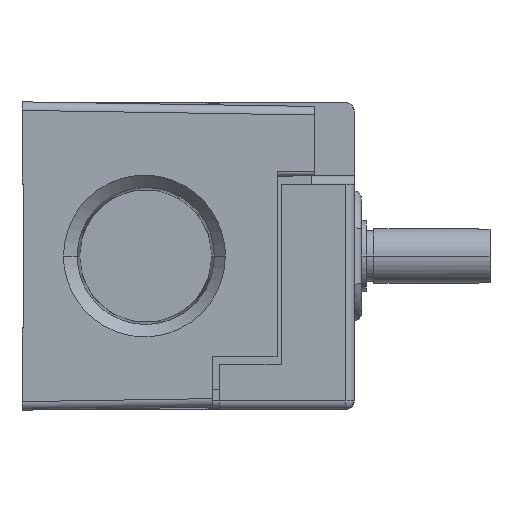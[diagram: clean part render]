
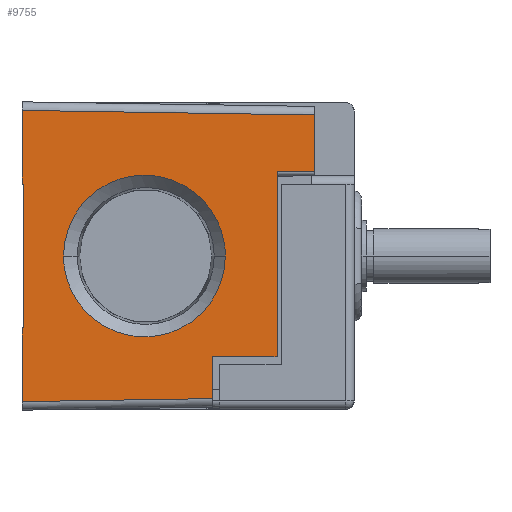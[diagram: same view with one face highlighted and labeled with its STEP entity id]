
A CAD part, front view. The second image highlights one B-rep face of the part: STEP entity #9755.
In plain terms, the highlighted planar face has unit normal (0.016, -1, 0).
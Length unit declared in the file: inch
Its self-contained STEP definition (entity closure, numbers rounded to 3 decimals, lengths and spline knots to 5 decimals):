
#1991=CARTESIAN_POINT('',(0.161,-3.18829,-0.7493));
#2001=DIRECTION('',(0.,0.,1.));
#2002=VECTOR('',#2001,0.2193);
#2003=CARTESIAN_POINT('',(0.161,-3.18829,-0.7493));
#2004=LINE('',#2003,#2002);
#2479=DIRECTION('',(0.,0.,1.));
#2480=VECTOR('',#2479,0.973);
#2481=CARTESIAN_POINT('',(0.501,-3.18295,-0.53));
#2482=LINE('',#2481,#2480);
#2487=DIRECTION('',(1.,0.016,0.));
#2488=VECTOR('',#2487,0.34004);
#2489=CARTESIAN_POINT('',(0.161,-3.18829,-0.53));
#2490=LINE('',#2489,#2488);
#2491=DIRECTION('',(-1.,-0.016,0.016));
#2492=VECTOR('',#2491,1.53538);
#2493=CARTESIAN_POINT('',(0.696,-3.17989,0.74089));
#2494=LINE('',#2493,#2492);
#2495=DIRECTION('',(1.,0.016,0.016));
#2496=VECTOR('',#2495,1.00025);
#2497=CARTESIAN_POINT('',(-0.839,-3.204,-0.76501));
#2498=LINE('',#2497,#2496);
#2499=DIRECTION('',(1.,0.016,0.));
#2500=VECTOR('',#2499,0.01);
#2501=CARTESIAN_POINT('',(-0.839,-3.204,-0.378));
#2502=LINE('',#2501,#2500);
#2503=DIRECTION('',(0.,0.,1.));
#2504=VECTOR('',#2503,0.756);
#2505=CARTESIAN_POINT('',(-0.829,-3.20384,-0.378));
#2506=LINE('',#2505,#2504);
#2507=DIRECTION('',(1.,0.016,0.));
#2508=VECTOR('',#2507,0.01);
#2509=CARTESIAN_POINT('',(-0.839,-3.204,0.378));
#2510=LINE('',#2509,#2508);
#2511=CARTESIAN_POINT('',(0.22922,-3.18722,0.));
#2512=CARTESIAN_POINT('',(0.22922,-3.18722,
-0.02503));
#2513=CARTESIAN_POINT('',(0.22477,-3.18729,
-0.07698));
#2514=CARTESIAN_POINT('',(0.20223,-3.18764,
-0.15686));
#2515=CARTESIAN_POINT('',(0.16265,-3.18826,
-0.23386));
#2516=CARTESIAN_POINT('',(0.10694,-3.18914,
-0.30258));
#2517=CARTESIAN_POINT('',(0.03821,-3.19022,
-0.35828));
#2518=CARTESIAN_POINT('',(-0.02595,-3.19123,
-0.39125));
#2519=CARTESIAN_POINT('',(-0.07874,-3.19206,
-0.40913));
#2520=CARTESIAN_POINT('',(-0.11844,-3.19268,
-0.41841));
#2521=CARTESIAN_POINT('',(-0.15111,-3.19319,
-0.42285));
#2522=CARTESIAN_POINT('',(-0.1768,-3.1936,
-0.42456));
#2523=CARTESIAN_POINT('',(-0.19567,-3.19389,
-0.42498));
#2524=CARTESIAN_POINT('',(-0.21455,-3.19419,
-0.42456));
#2525=CARTESIAN_POINT('',(-0.24024,-3.19459,
-0.42285));
#2526=CARTESIAN_POINT('',(-0.27291,-3.19511,
-0.41841));
#2527=CARTESIAN_POINT('',(-0.31261,-3.19573,
-0.40913));
#2528=CARTESIAN_POINT('',(-0.36539,-3.19656,
-0.39125));
#2529=CARTESIAN_POINT('',(-0.42956,-3.19757,
-0.35828));
#2530=CARTESIAN_POINT('',(-0.49829,-3.19865,
-0.30258));
#2531=CARTESIAN_POINT('',(-0.554,-3.19952,
-0.23386));
#2532=CARTESIAN_POINT('',(-0.59357,-3.20014,
-0.15686));
#2533=CARTESIAN_POINT('',(-0.61612,-3.2005,
-0.07698));
#2534=CARTESIAN_POINT('',(-0.62057,-3.20057,
-0.02503));
#2535=CARTESIAN_POINT('',(-0.62057,-3.20057,0.));
#2537=CARTESIAN_POINT('',(-0.62057,-3.20057,0.));
#2538=CARTESIAN_POINT('',(-0.62057,-3.20057,
0.02503));
#2539=CARTESIAN_POINT('',(-0.61612,-3.2005,
0.07698));
#2540=CARTESIAN_POINT('',(-0.59357,-3.20014,
0.15686));
#2541=CARTESIAN_POINT('',(-0.554,-3.19952,
0.23386));
#2542=CARTESIAN_POINT('',(-0.49829,-3.19865,
0.30258));
#2543=CARTESIAN_POINT('',(-0.42956,-3.19757,
0.35828));
#2544=CARTESIAN_POINT('',(-0.36539,-3.19656,
0.39125));
#2545=CARTESIAN_POINT('',(-0.31261,-3.19573,
0.40913));
#2546=CARTESIAN_POINT('',(-0.27291,-3.19511,
0.41841));
#2547=CARTESIAN_POINT('',(-0.24024,-3.19459,
0.42285));
#2548=CARTESIAN_POINT('',(-0.21455,-3.19419,
0.42456));
#2549=CARTESIAN_POINT('',(-0.19567,-3.19389,
0.42498));
#2550=CARTESIAN_POINT('',(-0.1768,-3.1936,
0.42456));
#2551=CARTESIAN_POINT('',(-0.15111,-3.19319,
0.42285));
#2552=CARTESIAN_POINT('',(-0.11844,-3.19268,
0.41841));
#2553=CARTESIAN_POINT('',(-0.07874,-3.19206,
0.40913));
#2554=CARTESIAN_POINT('',(-0.02595,-3.19123,
0.39125));
#2555=CARTESIAN_POINT('',(0.03821,-3.19022,
0.35828));
#2556=CARTESIAN_POINT('',(0.10694,-3.18914,
0.30258));
#2557=CARTESIAN_POINT('',(0.16265,-3.18826,
0.23386));
#2558=CARTESIAN_POINT('',(0.20223,-3.18764,
0.15686));
#2559=CARTESIAN_POINT('',(0.22477,-3.18729,
0.07698));
#2560=CARTESIAN_POINT('',(0.22922,-3.18722,
0.02503));
#2561=CARTESIAN_POINT('',(0.22922,-3.18722,0.));
#2563=CARTESIAN_POINT('',(-0.839,-3.204,0.76501));
#2573=DIRECTION('',(0.,0.,1.));
#2574=VECTOR('',#2573,0.38701);
#2575=CARTESIAN_POINT('',(-0.839,-3.204,0.378));
#2576=LINE('',#2575,#2574);
#2717=CARTESIAN_POINT('',(0.696,-3.17989,0.74089));
#2746=DIRECTION('',(0.,0.,-1.));
#2747=VECTOR('',#2746,0.29789);
#2748=CARTESIAN_POINT('',(0.696,-3.17989,0.74089));
#2749=LINE('',#2748,#2747);
#2777=DIRECTION('',(1.,0.016,0.));
#2778=VECTOR('',#2777,0.19502);
#2779=CARTESIAN_POINT('',(0.501,-3.18295,0.443));
#2780=LINE('',#2779,#2778);
#2816=CARTESIAN_POINT('',(-0.839,-3.204,-0.76501));
#2835=DIRECTION('',(0.,0.,1.));
#2836=VECTOR('',#2835,0.38701);
#2837=CARTESIAN_POINT('',(-0.839,-3.204,-0.76501));
#2838=LINE('',#2837,#2836);
#5971=CARTESIAN_POINT('',(0.22922,-3.18722,0.));
#5972=VERTEX_POINT('',#5971);
#5973=CARTESIAN_POINT('',(-0.62057,-3.20057,0.));
#5974=VERTEX_POINT('',#5973);
#5976=CARTESIAN_POINT('',(0.501,-3.18295,0.443));
#5978=VERTEX_POINT('',#5976);
#5985=CARTESIAN_POINT('',(0.696,-3.17989,0.443));
#5986=VERTEX_POINT('',#5985);
#5987=CARTESIAN_POINT('',(0.501,-3.18295,-0.53));
#5988=VERTEX_POINT('',#5987);
#5995=CARTESIAN_POINT('',(0.161,-3.18829,-0.53));
#5996=VERTEX_POINT('',#5995);
#5999=VERTEX_POINT('',#2563);
#6003=VERTEX_POINT('',#2717);
#6004=VERTEX_POINT('',#1991);
#6008=VERTEX_POINT('',#2816);
#6061=CARTESIAN_POINT('',(-0.839,-3.204,-0.378));
#6062=VERTEX_POINT('',#6061);
#6063=CARTESIAN_POINT('',(-0.839,-3.204,0.378));
#6065=VERTEX_POINT('',#6063);
#6083=CARTESIAN_POINT('',(-0.829,-3.20384,-0.378));
#6084=CARTESIAN_POINT('',(-0.829,-3.20384,0.378));
#6085=VERTEX_POINT('',#6083);
#6086=VERTEX_POINT('',#6084);
#9722=CARTESIAN_POINT('',(-0.839,-3.204,-1.85443));
#9723=DIRECTION('',(0.016,-1.,0.));
#9724=DIRECTION('',(0.,0.,1.));
#9725=AXIS2_PLACEMENT_3D('',#9722,#9723,#9724);
#9726=PLANE('',#9725);
#9728=ORIENTED_EDGE('',*,*,#9727,.F.);
#9730=ORIENTED_EDGE('',*,*,#9729,.T.);
#9732=ORIENTED_EDGE('',*,*,#9731,.F.);
#9733=ORIENTED_EDGE('',*,*,#9701,.F.);
#9734=ORIENTED_EDGE('',*,*,#9716,.F.);
#9735=ORIENTED_EDGE('',*,*,#9055,.F.);
#9737=ORIENTED_EDGE('',*,*,#9736,.F.);
#9739=ORIENTED_EDGE('',*,*,#9738,.T.);
#9741=ORIENTED_EDGE('',*,*,#9740,.T.);
#9742=ORIENTED_EDGE('',*,*,#9475,.T.);
#9744=ORIENTED_EDGE('',*,*,#9743,.F.);
#9746=ORIENTED_EDGE('',*,*,#9745,.T.);
#9747=EDGE_LOOP('',(#9728,#9730,#9732,#9733,#9734,#9735,#9737,#9739,#9741,#9742,
#9744,#9746));
#9748=FACE_OUTER_BOUND('',#9747,.F.);
#9750=ORIENTED_EDGE('',*,*,#9749,.F.);
#9752=ORIENTED_EDGE('',*,*,#9751,.F.);
#9753=EDGE_LOOP('',(#9750,#9752));
#9754=FACE_BOUND('',#9753,.F.);
#9755=ADVANCED_FACE('',(#9748,#9754),#9726,.T.);
#2536=B_SPLINE_CURVE_WITH_KNOTS('',3,(#2511,#2512,#2513,#2514,#2515,#2516,#2517,
#2518,#2519,#2520,#2521,#2522,#2523,#2524,#2525,#2526,#2527,#2528,#2529,#2530,
#2531,#2532,#2533,#2534,#2535),.UNSPECIFIED.,.F.,.F.,(4,1,1,1,1,1,1,1,1,1,1,1,1,
1,1,1,1,1,1,1,1,1,4),(0.,0.0625,0.125,0.1875,0.25,0.3125,0.375,
0.40625,0.4375,0.46875,0.48438,0.5,0.51563,0.53125,0.5625,
0.59375,0.625,0.6875,0.75,0.8125,0.875,0.9375,1.),
.UNSPECIFIED.);
#2562=B_SPLINE_CURVE_WITH_KNOTS('',3,(#2537,#2538,#2539,#2540,#2541,#2542,#2543,
#2544,#2545,#2546,#2547,#2548,#2549,#2550,#2551,#2552,#2553,#2554,#2555,#2556,
#2557,#2558,#2559,#2560,#2561),.UNSPECIFIED.,.F.,.F.,(4,1,1,1,1,1,1,1,1,1,1,1,1,
1,1,1,1,1,1,1,1,1,4),(0.,0.0625,0.125,0.1875,0.25,0.3125,0.375,
0.40625,0.4375,0.46875,0.48438,0.5,0.51563,0.53125,0.5625,
0.59375,0.625,0.6875,0.75,0.8125,0.875,0.9375,1.),
.UNSPECIFIED.);
#9055=EDGE_CURVE('',#6004,#5996,#2004,.T.);
#9475=EDGE_CURVE('',#6085,#6086,#2506,.T.);
#9701=EDGE_CURVE('',#5988,#5978,#2482,.T.);
#9716=EDGE_CURVE('',#5996,#5988,#2490,.T.);
#9727=EDGE_CURVE('',#6003,#5999,#2494,.T.);
#9729=EDGE_CURVE('',#6003,#5986,#2749,.T.);
#9731=EDGE_CURVE('',#5978,#5986,#2780,.T.);
#9736=EDGE_CURVE('',#6008,#6004,#2498,.T.);
#9738=EDGE_CURVE('',#6008,#6062,#2838,.T.);
#9740=EDGE_CURVE('',#6062,#6085,#2502,.T.);
#9743=EDGE_CURVE('',#6065,#6086,#2510,.T.);
#9745=EDGE_CURVE('',#6065,#5999,#2576,.T.);
#9749=EDGE_CURVE('',#5972,#5974,#2536,.T.);
#9751=EDGE_CURVE('',#5974,#5972,#2562,.T.);
